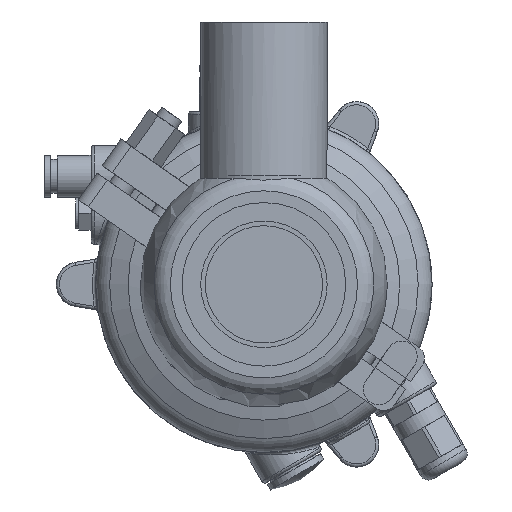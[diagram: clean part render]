
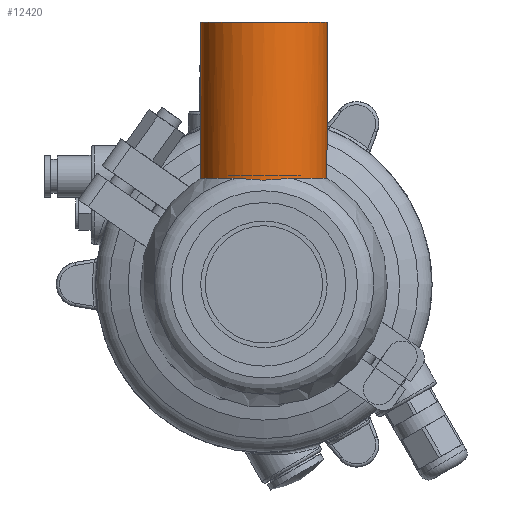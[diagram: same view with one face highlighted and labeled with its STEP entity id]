
A CAD part, front view. The second image highlights one B-rep face of the part: STEP entity #12420.
In plain terms, the highlighted cylindrical face has radius 20.5 mm (diameter 41 mm), a full revolution.
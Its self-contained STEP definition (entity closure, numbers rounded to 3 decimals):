
#530 = CARTESIAN_POINT ( 'NONE',  ( 34.347, -18.261, 9.316 ) ) ;
#615 = CARTESIAN_POINT ( 'NONE',  ( 34.347, -18.261, 9.316 ) ) ;
#1123 = CARTESIAN_POINT ( 'NONE',  ( 33.914, -20.251, -3.21 ) ) ;
#3917 = DIRECTION ( 'NONE',  ( 0., 0., 1. ) ) ;
#4245 = EDGE_LOOP ( 'NONE', ( #21202 ) ) ;
#4577 = B_SPLINE_CURVE_WITH_KNOTS ( 'NONE', 3,
 ( #530, #51404, #55918, #18971, #18673, #13845, #27776, #14451, #23205, #32922, #1123, #9925, #19540, #28379, #46884, #28967 ),
 .UNSPECIFIED., .F., .F.,
 ( 4, 2, 2, 2, 2, 2, 2, 4 ),
 ( 0., 0.005, 0.007, 0.01, 0.012, 0.013, 0.014, 0.019 ),
 .UNSPECIFIED. ) ;
#8803 = CARTESIAN_POINT ( 'NONE',  ( 0., 0., 0. ) ) ;
#9403 = EDGE_LOOP ( 'NONE', ( #23345, #9414 ) ) ;
#9414 = ORIENTED_EDGE ( 'NONE', *, *, #29685, .T. ) ;
#9925 = CARTESIAN_POINT ( 'NONE',  ( 33.983, -20.109, -4.007 ) ) ;
#12092 = DIRECTION ( 'NONE',  ( -1., 0., 0. ) ) ;
#12108 = FACE_OUTER_BOUND ( 'NONE', #9403, .T. ) ;
#12420 = ADVANCED_FACE ( 'NONE', ( #12108, #26629 ), #27533, .T. ) ;
#12745 = EDGE_CURVE ( 'NONE', #45399, #45399, #39163, .T. ) ;
#13845 = CARTESIAN_POINT ( 'NONE',  ( 33.803, -20.453, 1.603 ) ) ;
#14451 = CARTESIAN_POINT ( 'NONE',  ( 33.772, -20.5, -0.802 ) ) ;
#18673 = CARTESIAN_POINT ( 'NONE',  ( 33.908, -20.264, 3.204 ) ) ;
#18971 = CARTESIAN_POINT ( 'NONE',  ( 33.982, -20.121, 4.006 ) ) ;
#19540 = CARTESIAN_POINT ( 'NONE',  ( 34.02, -20.026, -4.401 ) ) ;
#21202 = ORIENTED_EDGE ( 'NONE', *, *, #12745, .T. ) ;
#23205 = CARTESIAN_POINT ( 'NONE',  ( 33.803, -20.453, -1.604 ) ) ;
#23345 = ORIENTED_EDGE ( 'NONE', *, *, #30509, .T. ) ;
#23683 = VERTEX_POINT ( 'NONE', #48769 ) ;
#25903 = CARTESIAN_POINT ( 'NONE',  ( 34.347, 0., 0. ) ) ;
#26013 = CARTESIAN_POINT ( 'NONE',  ( 85., 0., 20.5 ) ) ;
#26629 = FACE_OUTER_BOUND ( 'NONE', #4245, .T. ) ;
#27533 = CYLINDRICAL_SURFACE ( 'NONE', #36282, 20.5 ) ;
#27776 = CARTESIAN_POINT ( 'NONE',  ( 33.772, -20.5, 0.802 ) ) ;
#28379 = CARTESIAN_POINT ( 'NONE',  ( 34.203, -19.556, -6.355 ) ) ;
#28967 = CARTESIAN_POINT ( 'NONE',  ( 34.347, -18.261, -9.316 ) ) ;
#29685 = EDGE_CURVE ( 'NONE', #57138, #23683, #4577, .T. ) ;
#30509 = EDGE_CURVE ( 'NONE', #23683, #57138, #47133, .T. ) ;
#32922 = CARTESIAN_POINT ( 'NONE',  ( 33.882, -20.311, -2.808 ) ) ;
#34361 = AXIS2_PLACEMENT_3D ( 'NONE', #45386, #12092, #3917 ) ;
#34518 = AXIS2_PLACEMENT_3D ( 'NONE', #25903, #44387, #43784 ) ;
#36282 = AXIS2_PLACEMENT_3D ( 'NONE', #8803, #46017, #45411 ) ;
#39163 = CIRCLE ( 'NONE', #34361, 20.5 ) ;
#43784 = DIRECTION ( 'NONE',  ( 0., 0., 1. ) ) ;
#44387 = DIRECTION ( 'NONE',  ( 1., 0., 0. ) ) ;
#45386 = CARTESIAN_POINT ( 'NONE',  ( 85., 0., 0. ) ) ;
#45399 = VERTEX_POINT ( 'NONE', #26013 ) ;
#45411 = DIRECTION ( 'NONE',  ( 0., 0., 1. ) ) ;
#46017 = DIRECTION ( 'NONE',  ( -1., 0., 0. ) ) ;
#46884 = CARTESIAN_POINT ( 'NONE',  ( 34.347, -19.003, -7.861 ) ) ;
#47133 = CIRCLE ( 'NONE', #34518, 20.5 ) ;
#48769 = CARTESIAN_POINT ( 'NONE',  ( 34.347, -18.261, -9.316 ) ) ;
#51404 = CARTESIAN_POINT ( 'NONE',  ( 34.347, -19.003, 7.862 ) ) ;
#55918 = CARTESIAN_POINT ( 'NONE',  ( 34.203, -19.557, 6.355 ) ) ;
#57138 = VERTEX_POINT ( 'NONE', #615 ) ;
